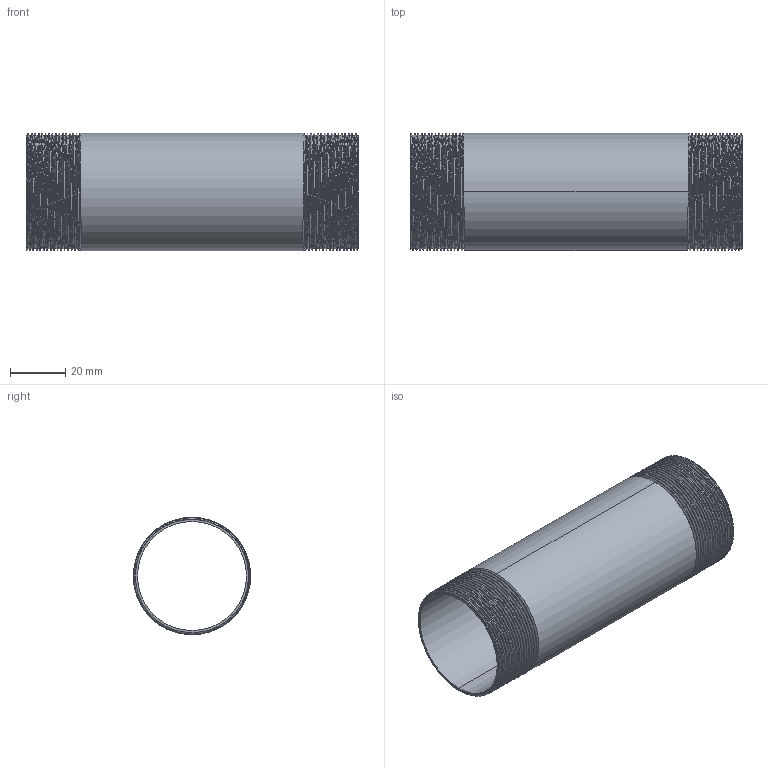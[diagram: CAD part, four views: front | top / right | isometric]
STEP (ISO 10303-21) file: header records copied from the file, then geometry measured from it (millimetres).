
FILE_DESCRIPTION (( 'STEP AP203' ), '1' );
FILE_NAME ('3D_R210_1 1-4x120_17185860.STEP', '2024-08-16T13:50:14', ( '' ), ( '' ), 'SwSTEP 2.0', 'SolidWorks 2024', '' );
FILE_SCHEMA (( 'CONFIG_CONTROL_DESIGN' ));
Length unit declared in the file: millimetre
Products named in the file (1): 3D_R210_1 1-4x120_17185860
Bounding box: 120 x 42.38 x 42.4 mm (x, y, z)
Volume: 20918.4 mm3; surface area: 33728.1 mm2
Topology: 1 solids, 1 shells, 82 faces, 232 edges, 152 vertices
Faces by surface type: cone 68, bspline 6, cylinder 4, plane 4
Entity records: 13957 total; most frequent: CARTESIAN_POINT 12055, ORIENTED_EDGE 464, DIRECTION 256, EDGE_CURVE 232, VERTEX_POINT 152, B_SPLINE_CURVE_WITH_KNOTS 134, AXIS2_PLACEMENT_3D 89, EDGE_LOOP 84
